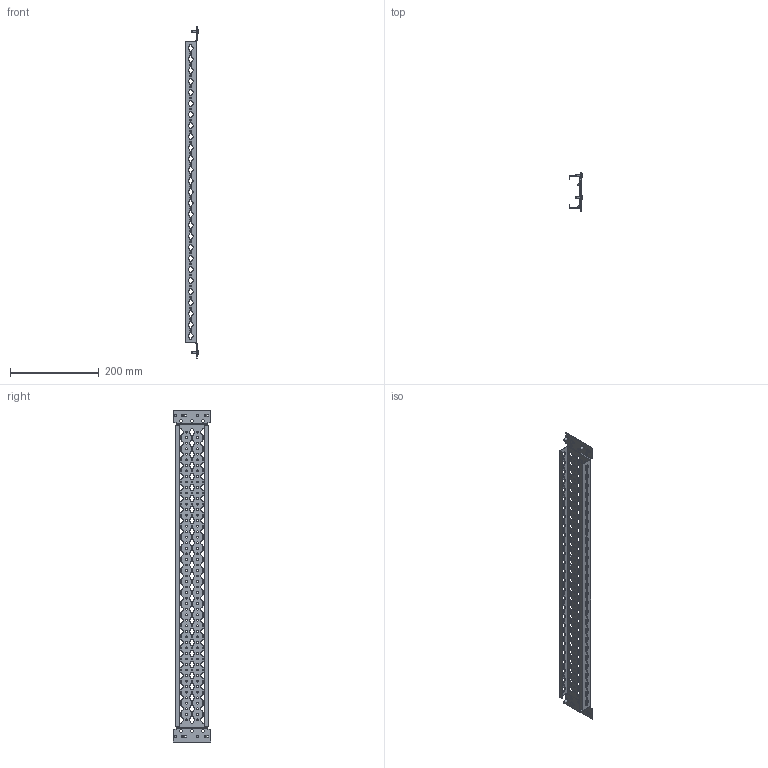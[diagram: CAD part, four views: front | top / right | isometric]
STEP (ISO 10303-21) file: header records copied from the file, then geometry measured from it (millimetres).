
FILE_DESCRIPTION(('Open CASCADE Model'),'2;1');
FILE_NAME('Open CASCADE Shape Model','2025-02-24T10:02:34',('Author'),( 'Open CASCADE'),'Open CASCADE STEP processor 7.8','Open CASCADE 7.8' ,'Unknown');
FILE_SCHEMA(('AUTOMOTIVE_DESIGN { 1 0 10303 214 1 1 1 1 }'));
Length unit declared in the file: millimetre
Products named in the file (3): Compound1; Solid1; Solid2
Assembly tree (5 placements, depth 2):
  Compound1
    Solid1
    Solid2  x4
Bounding box: 30.36 x 85 x 750.04 mm (x, y, z)
Volume: 123314.9 mm3; surface area: 180405 mm2
Topology: 5 solids, 5 shells, 2644 faces, 7831 edges, 5201 vertices
Faces by surface type: cylinder 1612, plane 1008, torus 8, cone 8, sphere 4, bspline 4
Full cylindrical faces by diameter (mm): 4.2 x236, 5 x4, 6.5 x10, 9.5 x4
Entity records: 90198 total; most frequent: CARTESIAN_POINT 16110, DIRECTION 15916, ORIENTED_EDGE 15480, EDGE_CURVE 7740, AXIS2_PLACEMENT_3D 5836, VERTEX_POINT 5150, LINE 4244, VECTOR 4244
